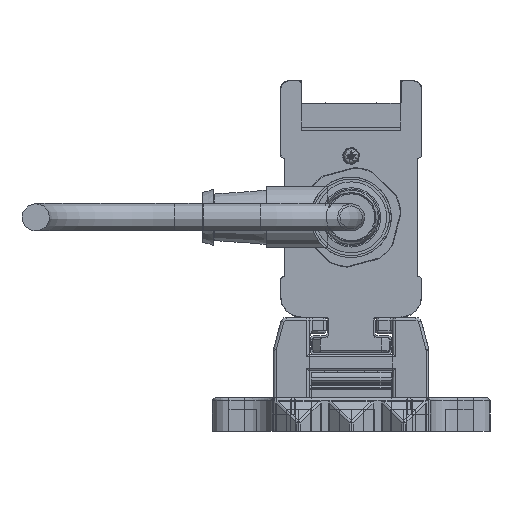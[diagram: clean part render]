
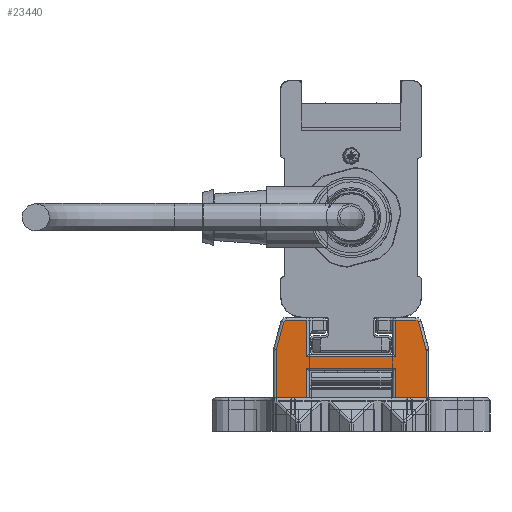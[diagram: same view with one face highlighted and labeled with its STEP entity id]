
A CAD part, left-side view. The second image highlights one B-rep face of the part: STEP entity #23440.
In plain terms, the highlighted planar face has unit normal (-1, 0, 0).
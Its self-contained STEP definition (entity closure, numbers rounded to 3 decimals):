
#23440=ADVANCED_FACE('', (#23450), #23460, .T.);
#165170=AXIS2_PLACEMENT_3D('Ax2Pl3d', #165180, #165190, #165200);
#165410=AXIS2_PLACEMENT_3D('Ax2Pl3d', #165420, #165430, #165440);
#170290=AXIS2_PLACEMENT_3D('Ax2Pl3d', #170300, #170310, #170320);
#175370=AXIS2_PLACEMENT_3D('Ax2Pl3d', #175380, #175390, #175400);
#185050=AXIS2_PLACEMENT_3D('Ax2Pl3d', #185060, #185070, #185080);
#714080=CARTESIAN_POINT('', (-747.669,-5046.345,
331.37));
#165180=CARTESIAN_POINT('HicPkt', (-747.669,-5045.379,
331.111));
#714090=CARTESIAN_POINT('', (-747.669,-5046.379,331.111)
);
#714100=CARTESIAN_POINT('', (-747.669,-5045.037,
336.255));
#714120=CARTESIAN_POINT('', (-747.669,-5045.037,
336.255));
#714150=CARTESIAN_POINT('', (-747.669,-5044.554,
336.625));
#165420=CARTESIAN_POINT('HicPkt', (-747.669,-5044.554,
336.125));
#714370=CARTESIAN_POINT('', (-747.669,-5046.379,322.625)
);
#714380=CARTESIAN_POINT('', (-747.669,-5040.881,322.625)
);
#714390=CARTESIAN_POINT('', (-747.669,-5040.881,322.625)
);
#714470=CARTESIAN_POINT('', (-747.669,-5024.881,322.625)
);
#714480=CARTESIAN_POINT('', (-747.669,-5019.383,322.625)
);
#714490=CARTESIAN_POINT('', (-747.669,-5019.383,322.625)
);
#170300=CARTESIAN_POINT('HicPkt', (-747.669,-5021.209,
336.125));
#716960=CARTESIAN_POINT('', (-747.669,-5020.726,
336.255));
#716970=CARTESIAN_POINT('', (-747.669,-5021.209,
336.625));
#716980=CARTESIAN_POINT('', (-747.669,-5040.881,
330.025));
#716990=CARTESIAN_POINT('', (-747.669,-5024.881,
330.025));
#717000=CARTESIAN_POINT('', (-747.669,-5040.881,
330.025));
#717160=CARTESIAN_POINT('', (-747.669,-5040.881,
328.005));
#717170=CARTESIAN_POINT('', (-747.669,-5024.881,
328.005));
#717180=CARTESIAN_POINT('', (-747.669,-5024.881,
328.005));
#717190=CARTESIAN_POINT('', (-747.669,-5040.881,
328.005));
#717210=CARTESIAN_POINT('', (-747.669,-5024.881,322.625)
);
#717220=CARTESIAN_POINT('', (-747.669,-5024.881,
330.025));
#717230=CARTESIAN_POINT('', (-747.669,-5024.881,
336.625));
#718080=CARTESIAN_POINT('', (-747.669,-5024.881,
336.625));
#718090=CARTESIAN_POINT('', (-747.669,-5020.726,
336.255));
#718100=CARTESIAN_POINT('', (-747.669,-5019.417,
331.37));
#718290=CARTESIAN_POINT('', (-747.669,-5019.383,331.111)
);
#718300=CARTESIAN_POINT('', (-747.669,-5019.383,331.111)
);
#175380=CARTESIAN_POINT('HicPkt', (-747.669,-5020.383,
331.111));
#719110=CARTESIAN_POINT('', (-747.669,-5046.379,331.111)
);
#185060=CARTESIAN_POINT('HicPkt', (-747.669,-5044.554,
336.625));
#720910=CARTESIAN_POINT('', (-747.669,-5040.881,
336.625));
#720920=CARTESIAN_POINT('', (-747.669,-5040.881,
336.625));
#720930=CARTESIAN_POINT('', (-747.669,-5040.881,
336.625));
#828200=CIRCLE('Circle', #165170, 1.);
#828240=CIRCLE('Circle', #165410, 0.5);
#828820=CIRCLE('Circle', #170290, 0.5);
#829350=CIRCLE('Circle', #175370, 1.);
#165190=DIRECTION('Axis', (-1.,0.,
0.));
#165200=DIRECTION('RefDirection', (0.,
0.,-1.));
#1155220=DIRECTION('', (0.,0.259,
0.966));
#165430=DIRECTION('Axis', (-1.,0.,
0.));
#165440=DIRECTION('RefDirection', (0.,
0.,-1.));
#1155330=DIRECTION('', (0.,1.,0.));
#1155370=DIRECTION('', (0.,1.,0.));
#170310=DIRECTION('Axis', (1.,0.,
0.));
#170320=DIRECTION('RefDirection', (0.,
0.,-1.));
#1156560=DIRECTION('', (0.,-1.,0.));
#1156660=DIRECTION('', (0.,1.,0.));
#1156670=DIRECTION('', (0.,0.,1.));
#1156690=DIRECTION('', (0.,0.,-1.));
#1156700=DIRECTION('', (0.,0.,-1.));
#1157130=DIRECTION('', (0.,-1.,0.))
;
#1157140=DIRECTION('', (0.,-0.259,0.966));
#1157230=DIRECTION('', (0.,0.,1.));
#175390=DIRECTION('Axis', (1.,0.,
0.));
#175400=DIRECTION('RefDirection', (0.,
0.,-1.));
#1157600=DIRECTION('', (0.,0.,1.));
#185070=DIRECTION('Axis', (-1.,0.,
0.));
#185080=DIRECTION('RefDirection', (0.,
0.,-1.));
#1158440=DIRECTION('', (0.,1.,0.));
#1158450=DIRECTION('', (0.,0.,1.));
#1233130=EDGE_CURVE('', #1233140, #1233120, #828200, .T.);
#1233190=EDGE_CURVE('', #1233120, #1233170, #1233200, .T.);
#1233260=EDGE_CURVE('', #1233170, #1233250, #828240, .T.);
#1233710=EDGE_CURVE('', #1233700, #1233720, #1233730, .T.);
#1233870=EDGE_CURVE('', #1233860, #1233880, #1233890, .T.);
#1238230=EDGE_CURVE('', #1238240, #1238250, #828820, .T.);
#1238280=EDGE_CURVE('', #1238290, #1238300, #1238310, .T.);
#1238650=EDGE_CURVE('', #1238630, #1238660, #1238670, .T.);
#1238700=EDGE_CURVE('', #1233720, #1238630, #1238710, .T.);
#1238740=EDGE_CURVE('', #1238660, #1233860, #1238750, .T.);
#1238760=EDGE_CURVE('', #1238770, #1238290, #1238780, .T.);
#1240600=EDGE_CURVE('', #1238250, #1238770, #1240610, .T.);
#1240670=EDGE_CURVE('', #1240680, #1238240, #1240690, .T.);
#1241110=EDGE_CURVE('', #1233880, #1241120, #1241130, .T.);
#1241150=EDGE_CURVE('', #1241120, #1240680, #829350, .T.);
#1242860=EDGE_CURVE('', #1233700, #1233140, #1242870, .T.);
#1246670=EDGE_CURVE('', #1233250, #1246680, #1246690, .T.);
#1246700=EDGE_CURVE('', #1238300, #1246680, #1246710, .T.);
#1483650=EDGE_LOOP('Edge_loop', (#1483660,#1483670,#1483680,#1483690,
#1483700,#1483710,#1483720,#1483730,#1483740,#1483750,#1483760,
#1483770,#1483780,#1483790,#1483800,#1483810,#1483820,#1483830));
#23450=FACE_OUTER_BOUND('Face_outer_bound', #1483650, .T.);
#1233200=LINE('Line', #714120, #1704690);
#1233730=LINE('Line', #714380, #1704800);
#1233890=LINE('Line', #714480, #1704840);
#1238310=LINE('Line', #716980, #1706030);
#1238670=LINE('Line', #717170, #1706130);
#1238710=LINE('Line', #717190, #1706140);
#1238750=LINE('Line', #717210, #1706160);
#1238780=LINE('Line', #717220, #1706170);
#1240610=LINE('Line', #718080, #1706600);
#1240690=LINE('Line', #718090, #1706610);
#1241130=LINE('Line', #718290, #1706700);
#1242870=LINE('Line', #719110, #1707070);
#1246690=LINE('Line', #720910, #1707910);
#1246710=LINE('Line', #720930, #1707920);
#1483660=ORIENTED_EDGE('', *, *, #1246670, .T.);
#1483670=ORIENTED_EDGE('', *, *, #1246700, .F.);
#1483680=ORIENTED_EDGE('', *, *, #1238280, .F.);
#1483690=ORIENTED_EDGE('', *, *, #1238760, .F.);
#1483700=ORIENTED_EDGE('', *, *, #1240600, .F.);
#1483710=ORIENTED_EDGE('', *, *, #1238230, .F.);
#1483720=ORIENTED_EDGE('', *, *, #1240670, .F.);
#1483730=ORIENTED_EDGE('', *, *, #1241150, .F.);
#1483740=ORIENTED_EDGE('', *, *, #1241110, .F.);
#1483750=ORIENTED_EDGE('', *, *, #1233870, .F.);
#1483760=ORIENTED_EDGE('', *, *, #1238740, .F.);
#1483770=ORIENTED_EDGE('', *, *, #1238650, .F.);
#1483780=ORIENTED_EDGE('', *, *, #1238700, .F.);
#1483790=ORIENTED_EDGE('', *, *, #1233710, .F.);
#1483800=ORIENTED_EDGE('', *, *, #1242860, .T.);
#1483810=ORIENTED_EDGE('', *, *, #1233130, .T.);
#1483820=ORIENTED_EDGE('', *, *, #1233190, .T.);
#1483830=ORIENTED_EDGE('', *, *, #1233260, .T.);
#23460=PLANE('Plane', #185050);
#1704690=VECTOR('', #1155220, 5.057);
#1704800=VECTOR('', #1155330, 5.498);
#1704840=VECTOR('', #1155370, 5.498);
#1706030=VECTOR('', #1156560, 16.);
#1706130=VECTOR('', #1156660, 16.);
#1706140=VECTOR('', #1156670, 5.38);
#1706160=VECTOR('', #1156690, 5.38);
#1706170=VECTOR('', #1156700, 6.6);
#1706600=VECTOR('', #1157130, 3.672);
#1706610=VECTOR('', #1157140, 5.057);
#1706700=VECTOR('', #1157230, 8.486);
#1707070=VECTOR('', #1157600, 8.486);
#1707910=VECTOR('', #1158440, 3.672);
#1707920=VECTOR('', #1158450, 6.6);
#1233120=VERTEX_POINT('', #714080);
#1233140=VERTEX_POINT('', #714090);
#1233170=VERTEX_POINT('', #714100);
#1233250=VERTEX_POINT('', #714150);
#1233700=VERTEX_POINT('', #714370);
#1233720=VERTEX_POINT('', #714390);
#1233860=VERTEX_POINT('', #714470);
#1233880=VERTEX_POINT('', #714490);
#1238240=VERTEX_POINT('', #716960);
#1238250=VERTEX_POINT('', #716970);
#1238290=VERTEX_POINT('', #716990);
#1238300=VERTEX_POINT('', #717000);
#1238630=VERTEX_POINT('', #717160);
#1238660=VERTEX_POINT('', #717180);
#1238770=VERTEX_POINT('', #717230);
#1240680=VERTEX_POINT('', #718100);
#1241120=VERTEX_POINT('', #718300);
#1246680=VERTEX_POINT('', #720920);
